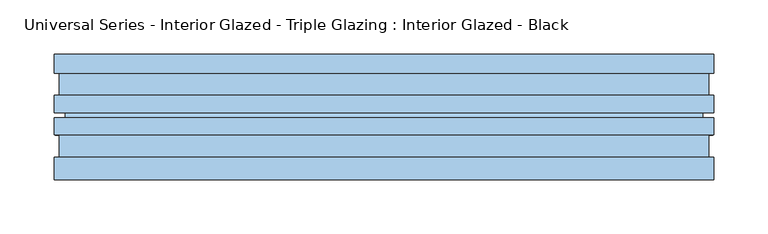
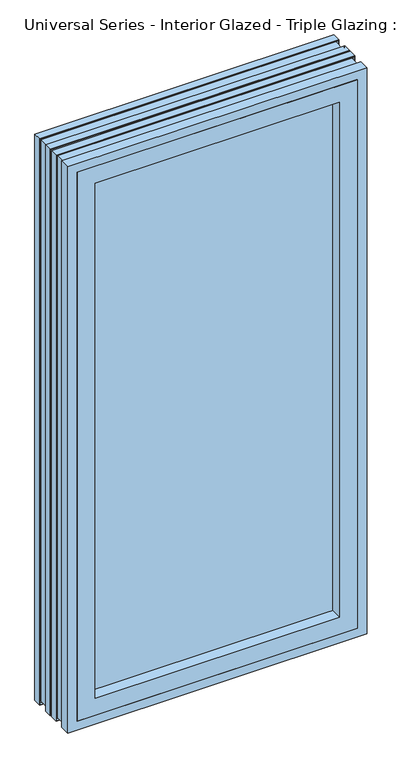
"""IFC4 building model written with IfcOpenShell, lengths in millimetres: window geometry, Universal Series - Interior Glazed - Triple Glazing : Interior Glazed - Black."""

from ifc_helpers import new_model, si_unit, frame, origin, place, context, project, spatial, polyline, ellipse_curve, outline, extrude, faceted_brep, source, transform, mapped, element, save
from ifc_brep_helpers import plane_surface, revolved_surface, advanced_brep


def universal_series_interior_glazed_triple_glazing_interior_81d28812(model_context):
    return source(origin(), model_context, "Body", "SolidModel", [
        extrude(outline(polyline([(276.225, 100.0), (276.225, 94.840625), (-276.225, 94.840625), (-276.225, 100.0), (276.225, 100.0)])), frame((0.0, 0.0, 790.575), z_axis=(0.0, 0.0, 1.0), x_axis=(1.0, 0.0, 0.0)), (0.0, 0.0, 1.0), 1162.05),
        extrude(outline(polyline([(276.225, 78.7671875), (276.225, 73.6078125), (-276.225, 73.6078125), (-276.225, 78.7671875), (276.225, 78.7671875)])), frame((0.0, 0.0, 790.575), z_axis=(0.0, 0.0, 1.0), x_axis=(1.0, 0.0, 0.0)), (0.0, 0.0, 1.0), 1162.05),
        extrude(outline(polyline([(276.225, 57.534375), (276.225, 52.375), (-276.225, 52.375), (-276.225, 57.534375), (276.225, 57.534375)])), frame((0.0, 0.0, 790.575), z_axis=(0.0, 0.0, 1.0), x_axis=(1.0, 0.0, 0.0)), (0.0, 0.0, 1.0), 1162.05),
        faceted_brep([(285.75, 31.7375, 1962.15), (285.75, 30.15, 1962.15), (285.75, 30.15, 781.05), (285.75, 31.7375, 781.05), (-285.75, 30.15, 781.05), (-285.75, 31.7375, 781.05), (-285.75, 30.15, 1962.15), (-249.2375, 30.15, 817.5625), (-249.2375, 30.15, 1925.6375), (249.2375, 30.15, 1925.6375), (249.2375, 30.15, 817.5625), (-285.75, 31.7375, 1962.15), (276.225, 31.7375, 790.575), (276.225, 31.7375, 1952.625), (-276.225, 31.7375, 1952.625), (-276.225, 31.7375, 790.575), (276.225, 50.7875, 1952.625), (276.225, 50.7875, 790.575), (-276.225, 50.7875, 790.575), (-276.225, 50.7875, 1952.625), (247.65, 52.375, 819.15), (-247.65, 52.375, 819.15), (247.65, 52.375, 1924.05), (-247.65, 52.375, 1924.05)], [[[0, 1, 2, 3]], [[3, 2, 4, 5]], [[2, 1, 6, 4], [7, 8, 9, 10]], [[5, 4, 6, 11]], [[5, 11, 0, 3], [12, 13, 14, 15]], [[16, 13, 12, 17]], [[17, 12, 15, 18]], [[18, 15, 14, 19]], [[20, 17, 18, 21]], [[22, 16, 17, 20]], [[21, 18, 19, 23]], [[10, 20, 21, 7]], [[9, 22, 20, 10]], [[7, 21, 23, 8]], [[11, 6, 1, 0]], [[19, 14, 13, 16]], [[23, 19, 16, 22]], [[8, 23, 22, 9]]]),
        advanced_brep(
        [(276.225, 112.7, 1952.625), (276.225, 146.0375, 1952.625), (276.225, 146.0375, 790.575), (276.225, 112.7, 790.575), (-276.225, 146.0375, 790.575), (-276.225, 112.7, 790.575), (-304.8, 146.0375, 762.0), (-304.8, 146.0375, 1981.2), (304.8, 146.0375, 1981.2), (304.8, 146.0375, 762.0), (-276.225, 146.0375, 1952.625), (-276.225, 112.7, 1952.625), (247.65, 112.7, 819.15), (247.65, 112.7, 1924.05), (-247.65, 112.7, 1924.05), (-247.65, 112.7, 819.15), (247.65, 100.0, 1924.05), (247.65, 100.0, 819.15), (-247.65, 100.0, 819.15), (-247.65, 100.0, 1924.05), (276.225, 100.0, 790.575), (276.225, 100.0, 1952.625), (-276.225, 100.0, 1952.625), (-276.225, 100.0, 790.575), (276.225, 44.4375, 1952.625), (276.225, 44.4375, 790.575), (-276.225, 44.4375, 790.575), (-276.225, 44.4375, 1952.625), (285.75, 44.4375, 781.05), (285.75, 44.4375, 1962.15), (-285.75, 44.4375, 1962.15), (-285.75, 44.4375, 781.05), (304.8, 30.15, 762.0), (304.8, 30.15, 1981.2), (-304.8, 30.15, 1981.2), (-304.8, 30.15, 762.0), (-285.75, 30.15, 781.05), (-285.75, 30.15, 1962.15), (285.75, 30.15, 1962.15), (285.75, 30.15, 781.05), (304.8, 50.7875, 1981.2), (304.8, 50.7875, 762.0), (-304.8, 50.7875, 762.0), (-304.8, 50.7875, 1981.2), (-304.8, 128.575, 762.0), (-304.8, 128.575, 1981.2), (304.8, 128.575, 1981.2), (304.8, 128.575, 762.0), (303.609375, 50.7875, 763.190625), (303.609375, 50.7875, 1980.009375), (-303.609375, 50.7875, 1980.009375), (-303.609375, 50.7875, 763.190625), (302.021875, 47.6125, 1978.421875), (302.021875, 47.6125, 764.778125), (-302.021875, 47.6125, 764.778125), (-302.021875, 47.6125, 1978.421875), (300.0375, 47.6125, 766.7625), (300.0375, 47.6125, 1976.4375), (-300.0375, 47.6125, 1976.4375), (-300.0375, 47.6125, 766.7625), (300.0375, 74.6, 1976.4375), (300.0375, 74.6, 766.7625), (-300.0375, 74.6, 766.7625), (-300.0375, 74.6, 1976.4375), (302.021875, 74.6, 764.778125), (302.021875, 74.6, 1978.421875), (-302.021875, 74.6, 1978.421875), (-302.021875, 74.6, 764.778125), (303.609375, 71.425, 1980.009375), (303.609375, 71.425, 763.190625), (-303.609375, 71.425, 763.190625), (-303.609375, 71.425, 1980.009375), (304.8, 71.425, 762.0), (304.8, 71.425, 1981.2), (-304.8, 71.425, 1981.2), (-304.8, 71.425, 762.0), (304.8, 87.3, 1981.2), (304.8, 87.3, 762.0), (-304.8, 87.3, 762.0), (-304.8, 87.3, 1981.2), (303.2125, 87.3, 763.5875), (303.2125, 87.3, 1979.6125), (-303.2125, 87.3, 1979.6125), (-303.2125, 87.3, 763.5875), (303.2125, 92.0625, 1979.6125), (303.2125, 92.0625, 763.5875), (-303.2125, 92.0625, 763.5875), (-303.2125, 92.0625, 1979.6125), (304.8, 92.0625, 762.0), (304.8, 92.0625, 1981.2), (-304.8, 92.0625, 1981.2), (-304.8, 92.0625, 762.0), (304.8, 107.9375, 1981.2), (304.8, 107.9375, 762.0), (-304.8, 107.9375, 762.0), (-304.8, 107.9375, 1981.2), (303.609375, 107.9375, 763.190625), (303.609375, 107.9375, 1980.009375), (-303.609375, 107.9375, 1980.009375), (-303.609375, 107.9375, 763.190625), (302.021875, 104.7625, 1978.421875), (302.021875, 104.7625, 764.778125), (-302.021875, 104.7625, 764.778125), (-302.021875, 104.7625, 1978.421875), (300.0375, 104.7625, 766.7625), (300.0375, 104.7625, 1976.4375), (-300.0375, 104.7625, 1976.4375), (-300.0375, 104.7625, 766.7625), (300.0375, 131.75, 1976.4375), (300.0375, 131.75, 766.7625), (-300.0375, 131.75, 766.7625), (-300.0375, 131.75, 1976.4375), (302.021875, 131.75, 764.778125), (302.021875, 131.75, 1978.421875), (-302.021875, 131.75, 1978.421875), (-302.021875, 131.75, 764.778125), (303.609375, 128.575, 1980.009375), (303.609375, 128.575, 763.190625), (-303.609375, 128.575, 763.190625), (-303.609375, 128.575, 1980.009375)],
        [
            (0, 1),
            (1, 2),
            (2, 3),
            (3, 0),
            (2, 4),
            (4, 5),
            (5, 3),
            (6, 7),
            (7, 8),
            (8, 9),
            (9, 6),
            (1, 10),
            (10, 4),
            (10, 11),
            (11, 5),
            (11, 0),
            (12, 13),
            (13, 14),
            (14, 15),
            (15, 12),
            (16, 13),
            (12, 17),
            (17, 16),
            (15, 18),
            (18, 17),
            (14, 19),
            (19, 18),
            (20, 21),
            (21, 22),
            (22, 23),
            (23, 20),
            (19, 16),
            (24, 21),
            (20, 25),
            (25, 24),
            (23, 26),
            (26, 25),
            (22, 27),
            (27, 26),
            (28, 29),
            (29, 30),
            (30, 31),
            (31, 28),
            (27, 24),
            (32, 33),
            (33, 34),
            (34, 35),
            (35, 32),
            (36, 37),
            (37, 38),
            (38, 39),
            (39, 36),
            (36, 31),
            (30, 37),
            (38, 29),
            (28, 39),
            (40, 33),
            (32, 41),
            (41, 40),
            (42, 35),
            (34, 43),
            (43, 42),
            (42, 41),
            (6, 44),
            (44, 45),
            (45, 7),
            (8, 46),
            (46, 47),
            (47, 9),
            (47, 44),
            (43, 40),
            (48, 49),
            (49, 50),
            (50, 51),
            (51, 48),
            (52, 49),
            (48, 53),
            (53, 52),
            (51, 54),
            (54, 53),
            (50, 55),
            (55, 54),
            (55, 52),
            (56, 57),
            (57, 58),
            (58, 59),
            (59, 56),
            (60, 57),
            (56, 61),
            (61, 60),
            (59, 62),
            (62, 61),
            (58, 63),
            (63, 62),
            (64, 65),
            (65, 66),
            (66, 67),
            (67, 64),
            (63, 60),
            (68, 65),
            (64, 69),
            (69, 68),
            (67, 70),
            (70, 69),
            (66, 71),
            (71, 70),
            (72, 73),
            (73, 74),
            (74, 75),
            (75, 72),
            (71, 68),
            (76, 73),
            (72, 77),
            (77, 76),
            (75, 78),
            (78, 77),
            (74, 79),
            (79, 78),
            (79, 76),
            (80, 81),
            (81, 82),
            (82, 83),
            (83, 80),
            (84, 81, ellipse_curve(frame((299.088054, 89.68125, 1975.488054), z_axis=(-0.7071067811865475, 0.0, 0.7071067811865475), x_axis=(-0.7071067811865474, 0.0, -0.7071067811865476)), 6.7351921, 4.7625)),
            (80, 85, ellipse_curve(frame((299.088054, 89.68125, 767.711946), z_axis=(-0.7071067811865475, 0.0, -0.7071067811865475), x_axis=(0.7071067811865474, 0.0, -0.7071067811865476)), 6.7351921, 4.7625)),
            (85, 84),
            (83, 86, ellipse_curve(frame((-299.088054, 89.68125, 767.711946), z_axis=(-0.7071067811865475, 0.0, 0.7071067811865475), x_axis=(-0.7071067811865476, 0.0, -0.7071067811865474)), 6.7351921, 4.7625)),
            (86, 85),
            (82, 87, ellipse_curve(frame((-299.088054, 89.68125, 1975.488054), z_axis=(0.7071067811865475, 0.0, 0.7071067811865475), x_axis=(-0.7071067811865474, 0.0, 0.7071067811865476)), 6.7351921, 4.7625)),
            (87, 86),
            (88, 89),
            (89, 90),
            (90, 91),
            (91, 88),
            (87, 84),
            (92, 89),
            (88, 93),
            (93, 92),
            (91, 94),
            (94, 93),
            (90, 95),
            (95, 94),
            (95, 92),
            (96, 97),
            (97, 98),
            (98, 99),
            (99, 96),
            (100, 97),
            (96, 101),
            (101, 100),
            (99, 102),
            (102, 101),
            (98, 103),
            (103, 102),
            (103, 100),
            (104, 105),
            (105, 106),
            (106, 107),
            (107, 104),
            (108, 105),
            (104, 109),
            (109, 108),
            (107, 110),
            (110, 109),
            (106, 111),
            (111, 110),
            (112, 113),
            (113, 114),
            (114, 115),
            (115, 112),
            (111, 108),
            (116, 113),
            (112, 117),
            (117, 116),
            (115, 118),
            (118, 117),
            (114, 119),
            (119, 118),
            (46, 45),
            (119, 116),
        ],
        [
            plane_surface(frame((276.225, 146.0375, 1952.625), z_axis=(-1.0, 0.0, 0.0), x_axis=(0.0, 0.0, -1.0))),
            plane_surface(frame((276.225, 146.0375, 790.575), z_axis=(0.0, 0.0, 1.0), x_axis=(-1.0, 0.0, 0.0))),
            plane_surface(frame((304.8, 146.0375, 1981.2), z_axis=(0.0, 1.0, 0.0), x_axis=(0.0, 0.0, -1.0))),
            plane_surface(frame((-276.225, 146.0375, 790.575), z_axis=(1.0, 0.0, 0.0), x_axis=(0.0, 0.0, 1.0))),
            plane_surface(frame((276.225, 112.7, 1952.625), z_axis=(0.0, 1.0, 0.0), x_axis=(0.0, 0.0, -1.0))),
            plane_surface(frame((247.65, 112.7, 1924.05), z_axis=(-1.0, 0.0, 0.0), x_axis=(0.0, 0.0, -1.0))),
            plane_surface(frame((247.65, 112.7, 819.15), z_axis=(0.0, 0.0, 1.0), x_axis=(-1.0, 0.0, 0.0))),
            plane_surface(frame((-247.65, 112.7, 819.15), z_axis=(1.0, 0.0, 0.0), x_axis=(0.0, 0.0, 1.0))),
            plane_surface(frame((247.65, 100.0, 1924.05), z_axis=(0.0, -1.0, 0.0), x_axis=(0.0, 0.0, -1.0))),
            plane_surface(frame((276.225, 100.0, 1952.625), z_axis=(-1.0, 0.0, 0.0), x_axis=(0.0, 0.0, -1.0))),
            plane_surface(frame((276.225, 100.0, 790.575), z_axis=(0.0, 0.0, 1.0), x_axis=(-1.0, 0.0, 0.0))),
            plane_surface(frame((-276.225, 100.0, 790.575), z_axis=(1.0, 0.0, 0.0), x_axis=(0.0, 0.0, 1.0))),
            plane_surface(frame((276.225, 44.4375, 1952.625), z_axis=(0.0, -1.0, 0.0), x_axis=(0.0, 0.0, -1.0))),
            plane_surface(frame((285.75, 30.15, 1962.15), z_axis=(0.0, -1.0, 0.0), x_axis=(0.0, 0.0, -1.0))),
            plane_surface(frame((-285.75, 44.4375, 781.05), z_axis=(1.0, 0.0, 0.0), x_axis=(0.0, 0.0, 1.0))),
            plane_surface(frame((285.75, 44.4375, 1962.15), z_axis=(-1.0, 0.0, 0.0), x_axis=(0.0, 0.0, -1.0))),
            plane_surface(frame((285.75, 44.4375, 781.05), z_axis=(0.0, 0.0, 1.0), x_axis=(-1.0, 0.0, 0.0))),
            plane_surface(frame((304.8, 30.15, 1981.2), z_axis=(1.0, 0.0, 0.0), x_axis=(0.0, 0.0, -1.0))),
            plane_surface(frame((-304.8, 30.15, 762.0), z_axis=(-1.0, 0.0, 0.0), x_axis=(0.0, 0.0, 1.0))),
            plane_surface(frame((304.8, 30.15, 762.0), z_axis=(0.0, 0.0, -1.0), x_axis=(-1.0, 0.0, 0.0))),
            plane_surface(frame((-304.8, 128.575, 762.0), z_axis=(-1.0, 0.0, 0.0), x_axis=(0.0, 0.0, 1.0))),
            plane_surface(frame((304.8, 128.575, 1981.2), z_axis=(1.0, 0.0, 0.0), x_axis=(0.0, 0.0, -1.0))),
            plane_surface(frame((304.8, 128.575, 762.0), z_axis=(0.0, 0.0, -1.0), x_axis=(-1.0, 0.0, 0.0))),
            plane_surface(frame((304.8, 50.7875, 1981.2), z_axis=(0.0, 1.0, 0.0), x_axis=(0.0, 0.0, -1.0))),
            plane_surface(frame((303.609375, 50.7875, 1980.009375), z_axis=(-0.8944271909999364, 0.44721359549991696, 0.0), x_axis=(0.0, 0.0, -1.0))),
            plane_surface(frame((303.609375, 50.7875, 763.190625), z_axis=(0.0, 0.4472135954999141, 0.8944271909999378), x_axis=(-1.0, 0.0, 0.0))),
            plane_surface(frame((-303.609375, 50.7875, 763.190625), z_axis=(0.8944271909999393, 0.4472135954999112, 0.0), x_axis=(0.0, 0.0, 1.0))),
            plane_surface(frame((302.021875, 47.6125, 1978.421875), z_axis=(0.0, 1.0, 0.0), x_axis=(0.0, 0.0, -1.0))),
            plane_surface(frame((300.0375, 47.6125, 1976.4375), z_axis=(1.0, 0.0, 0.0), x_axis=(0.0, 0.0, -1.0))),
            plane_surface(frame((300.0375, 47.6125, 766.7625), z_axis=(0.0, 0.0, -1.0), x_axis=(-1.0, 0.0, 0.0))),
            plane_surface(frame((-300.0375, 47.6125, 766.7625), z_axis=(-1.0, 0.0, 0.0), x_axis=(0.0, 0.0, 1.0))),
            plane_surface(frame((300.0375, 74.6, 1976.4375), z_axis=(0.0, -1.0, 0.0), x_axis=(0.0, 0.0, -1.0))),
            plane_surface(frame((302.021875, 74.6, 1978.421875), z_axis=(-0.8944271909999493, -0.44721359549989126, 0.0), x_axis=(0.0, 0.0, -1.0))),
            plane_surface(frame((302.021875, 74.6, 764.778125), z_axis=(0.0, -0.44721359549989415, 0.8944271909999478), x_axis=(-1.0, 0.0, 0.0))),
            plane_surface(frame((-302.021875, 74.6, 764.778125), z_axis=(0.8944271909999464, -0.44721359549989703, 0.0), x_axis=(0.0, 0.0, 1.0))),
            plane_surface(frame((303.609375, 71.425, 1980.009375), z_axis=(0.0, -1.0, 0.0), x_axis=(0.0, 0.0, -1.0))),
            plane_surface(frame((304.8, 71.425, 1981.2), z_axis=(1.0, 0.0, 0.0), x_axis=(0.0, 0.0, -1.0))),
            plane_surface(frame((304.8, 71.425, 762.0), z_axis=(0.0, 0.0, -1.0), x_axis=(-1.0, 0.0, 0.0))),
            plane_surface(frame((-304.8, 71.425, 762.0), z_axis=(-1.0, 0.0, 0.0), x_axis=(0.0, 0.0, 1.0))),
            plane_surface(frame((304.8, 87.3, 1981.2), z_axis=(0.0, 1.0, 0.0), x_axis=(0.0, 0.0, -1.0))),
            revolved_surface(polyline([(299.088054, 84.91875, 762.949445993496), (299.088054, 84.91875, 1980.250554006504)]), (299.088054, 89.68125, 1981.2), (0.0, 0.0, -1.0)),
            revolved_surface(polyline([(-303.85055400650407, 84.91875, 767.711946), (303.85055400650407, 84.91875, 767.711946)]), (304.8, 89.68125, 767.711946), (-1.0, 0.0, 0.0)),
            revolved_surface(polyline([(-299.088054, 84.91875, 1980.250554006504), (-299.088054, 84.91875, 762.9494459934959)]), (-299.088054, 89.68125, 762.0), (0.0, 0.0, 1.0)),
            plane_surface(frame((303.2125, 92.0625, 1979.6125), z_axis=(0.0, -1.0, 0.0), x_axis=(0.0, 0.0, -1.0))),
            plane_surface(frame((304.8, 92.0625, 1981.2), z_axis=(1.0, 0.0, 0.0), x_axis=(0.0, 0.0, -1.0))),
            plane_surface(frame((304.8, 92.0625, 762.0), z_axis=(0.0, 0.0, -1.0), x_axis=(-1.0, 0.0, 0.0))),
            plane_surface(frame((-304.8, 92.0625, 762.0), z_axis=(-1.0, 0.0, 0.0), x_axis=(0.0, 0.0, 1.0))),
            plane_surface(frame((304.8, 107.9375, 1981.2), z_axis=(0.0, 1.0, 0.0), x_axis=(0.0, 0.0, -1.0))),
            plane_surface(frame((303.609375, 107.9375, 1980.009375), z_axis=(-0.8944271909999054, 0.4472135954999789, 0.0), x_axis=(0.0, 0.0, -1.0))),
            plane_surface(frame((303.609375, 107.9375, 763.190625), z_axis=(0.0, 0.447213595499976, 0.8944271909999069), x_axis=(-1.0, 0.0, 0.0))),
            plane_surface(frame((-303.609375, 107.9375, 763.190625), z_axis=(0.8944271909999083, 0.44721359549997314, 0.0), x_axis=(0.0, 0.0, 1.0))),
            plane_surface(frame((302.021875, 104.7625, 1978.421875), z_axis=(0.0, 1.0, 0.0), x_axis=(0.0, 0.0, -1.0))),
            plane_surface(frame((300.0375, 104.7625, 1976.4375), z_axis=(1.0, 0.0, 0.0), x_axis=(0.0, 0.0, -1.0))),
            plane_surface(frame((300.0375, 104.7625, 766.7625), z_axis=(0.0, 0.0, -1.0), x_axis=(-1.0, 0.0, 0.0))),
            plane_surface(frame((-300.0375, 104.7625, 766.7625), z_axis=(-1.0, 0.0, 0.0), x_axis=(0.0, 0.0, 1.0))),
            plane_surface(frame((300.0375, 131.75, 1976.4375), z_axis=(0.0, -1.0, 0.0), x_axis=(0.0, 0.0, -1.0))),
            plane_surface(frame((302.021875, 131.75, 1978.421875), z_axis=(-0.894427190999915, -0.44721359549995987, 0.0), x_axis=(0.0, 0.0, -1.0))),
            plane_surface(frame((302.021875, 131.75, 764.778125), z_axis=(0.0, -0.44721359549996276, 0.8944271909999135), x_axis=(-1.0, 0.0, 0.0))),
            plane_surface(frame((-302.021875, 131.75, 764.778125), z_axis=(0.8944271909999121, -0.44721359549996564, 0.0), x_axis=(0.0, 0.0, 1.0))),
            plane_surface(frame((303.609375, 128.575, 1980.009375), z_axis=(0.0, -1.0, 0.0), x_axis=(0.0, 0.0, -1.0))),
            plane_surface(frame((-276.225, 146.0375, 1952.625), z_axis=(0.0, 0.0, -1.0), x_axis=(1.0, 0.0, 0.0))),
            plane_surface(frame((-247.65, 112.7, 1924.05), z_axis=(0.0, 0.0, -1.0), x_axis=(1.0, 0.0, 0.0))),
            plane_surface(frame((-276.225, 100.0, 1952.625), z_axis=(0.0, 0.0, -1.0), x_axis=(1.0, 0.0, 0.0))),
            plane_surface(frame((-285.75, 44.4375, 1962.15), z_axis=(0.0, 0.0, -1.0), x_axis=(1.0, 0.0, 0.0))),
            plane_surface(frame((-304.8, 30.15, 1981.2), z_axis=(0.0, 0.0, 1.0), x_axis=(1.0, 0.0, 0.0))),
            plane_surface(frame((-303.609375, 50.7875, 1980.009375), z_axis=(0.0, 0.4472135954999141, -0.8944271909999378), x_axis=(1.0, 0.0, 0.0))),
            plane_surface(frame((-300.0375, 47.6125, 1976.4375), z_axis=(0.0, 0.0, 1.0), x_axis=(1.0, 0.0, 0.0))),
            plane_surface(frame((-302.021875, 74.6, 1978.421875), z_axis=(0.0, -0.44721359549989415, -0.8944271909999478), x_axis=(1.0, 0.0, 0.0))),
            plane_surface(frame((-304.8, 71.425, 1981.2), z_axis=(0.0, 0.0, 1.0), x_axis=(1.0, 0.0, 0.0))),
            revolved_surface(polyline([(303.85055400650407, 84.91875, 1975.488054), (-303.85055400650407, 84.91875, 1975.488054)]), (-304.8, 89.68125, 1975.488054), (1.0, 0.0, 0.0)),
            plane_surface(frame((-304.8, 92.0625, 1981.2), z_axis=(0.0, 0.0, 1.0), x_axis=(1.0, 0.0, 0.0))),
            plane_surface(frame((-303.609375, 107.9375, 1980.009375), z_axis=(0.0, 0.447213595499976, -0.8944271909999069), x_axis=(1.0, 0.0, 0.0))),
            plane_surface(frame((-300.0375, 104.7625, 1976.4375), z_axis=(0.0, 0.0, 1.0), x_axis=(1.0, 0.0, 0.0))),
            plane_surface(frame((-302.021875, 131.75, 1978.421875), z_axis=(0.0, -0.44721359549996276, -0.8944271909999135), x_axis=(1.0, 0.0, 0.0))),
            plane_surface(frame((-304.8, 128.575, 1981.2), z_axis=(0.0, 0.0, 1.0), x_axis=(1.0, 0.0, 0.0))),
        ],
        [
            (0, [[1, 2, 3, 4]]),
            (1, [[-3, 5, 6, 7]]),
            (2, [[8, 9, 10, 11], [-2, 12, 13, -5]]),
            (3, [[-6, -13, 14, 15]]),
            (4, [[-15, 16, -4, -7], [17, 18, 19, 20]]),
            (5, [[21, -17, 22, 23]]),
            (6, [[-22, -20, 24, 25]]),
            (7, [[-24, -19, 26, 27]]),
            (8, [[28, 29, 30, 31], [-27, 32, -23, -25]]),
            (9, [[33, -28, 34, 35]]),
            (10, [[-34, -31, 36, 37]]),
            (11, [[-36, -30, 38, 39]]),
            (12, [[40, 41, 42, 43], [-39, 44, -35, -37]]),
            (13, [[45, 46, 47, 48], [49, 50, 51, 52]]),
            (14, [[53, -42, 54, -49]]),
            (15, [[55, -40, 56, -51]]),
            (16, [[-56, -43, -53, -52]]),
            (17, [[57, -45, 58, 59]]),
            (18, [[60, -47, 61, 62]]),
            (19, [[-58, -48, -60, 63]]),
            (20, [[64, 65, 66, -8]]),
            (21, [[67, 68, 69, -10]]),
            (22, [[-69, 70, -64, -11]]),
            (23, [[-62, 71, -59, -63], [72, 73, 74, 75]]),
            (24, [[76, -72, 77, 78]]),
            (25, [[-77, -75, 79, 80]]),
            (26, [[-79, -74, 81, 82]]),
            (27, [[-82, 83, -78, -80], [84, 85, 86, 87]]),
            (28, [[88, -84, 89, 90]]),
            (29, [[-89, -87, 91, 92]]),
            (30, [[-91, -86, 93, 94]]),
            (31, [[95, 96, 97, 98], [-94, 99, -90, -92]]),
            (32, [[100, -95, 101, 102]]),
            (33, [[-101, -98, 103, 104]]),
            (34, [[-103, -97, 105, 106]]),
            (35, [[107, 108, 109, 110], [-106, 111, -102, -104]]),
            (36, [[112, -107, 113, 114]]),
            (37, [[-113, -110, 115, 116]]),
            (38, [[-115, -109, 117, 118]]),
            (39, [[-118, 119, -114, -116], [120, 121, 122, 123]]),
            (40, [[124, -120, 125, 126]]),
            (41, [[-125, -123, 127, 128]]),
            (42, [[-127, -122, 129, 130]]),
            (43, [[131, 132, 133, 134], [-130, 135, -126, -128]]),
            (44, [[136, -131, 137, 138]]),
            (45, [[-137, -134, 139, 140]]),
            (46, [[-139, -133, 141, 142]]),
            (47, [[-142, 143, -138, -140], [144, 145, 146, 147]]),
            (48, [[148, -144, 149, 150]]),
            (49, [[-149, -147, 151, 152]]),
            (50, [[-151, -146, 153, 154]]),
            (51, [[-154, 155, -150, -152], [156, 157, 158, 159]]),
            (52, [[160, -156, 161, 162]]),
            (53, [[-161, -159, 163, 164]]),
            (54, [[-163, -158, 165, 166]]),
            (55, [[167, 168, 169, 170], [-166, 171, -162, -164]]),
            (56, [[172, -167, 173, 174]]),
            (57, [[-173, -170, 175, 176]]),
            (58, [[-175, -169, 177, 178]]),
            (59, [[-68, 179, -65, -70], [-178, 180, -174, -176]]),
            (60, [[-14, -12, -1, -16]]),
            (61, [[-26, -18, -21, -32]]),
            (62, [[-38, -29, -33, -44]]),
            (63, [[-54, -41, -55, -50]]),
            (64, [[-61, -46, -57, -71]]),
            (65, [[-81, -73, -76, -83]]),
            (66, [[-93, -85, -88, -99]]),
            (67, [[-105, -96, -100, -111]]),
            (68, [[-117, -108, -112, -119]]),
            (69, [[-129, -121, -124, -135]]),
            (70, [[-141, -132, -136, -143]]),
            (71, [[-153, -145, -148, -155]]),
            (72, [[-165, -157, -160, -171]]),
            (73, [[-177, -168, -172, -180]]),
            (74, [[-66, -179, -67, -9]]),
        ],
    ),
    ])


if __name__ == "__main__":
    model = new_model("IFC4")
    model_context = context("Model", 3, world=origin())
    ifc_project = project(units=[si_unit("LENGTHUNIT", "METRE", prefix="MILLI")], contexts=[model_context])
    site = spatial("IfcSite", under=ifc_project)
    building = spatial("IfcBuilding", under=site)
    placement = place(None, origin())
    universal_series_interior_glazed_triple_glazing_interior_shape = universal_series_interior_glazed_triple_glazing_interior_81d28812(model_context)
    element("IfcWindow", 1, ObjectType="Universal Series - Interior Glazed - Triple Glazing : Interior Glazed - Black", at=placement, inside=building, context=model_context, shape_type="MappedRepresentation", body=[
        mapped(universal_series_interior_glazed_triple_glazing_interior_shape, transform((0.0, 0.0, 0.0), x_axis=(1.0, 0.0, 0.0), y_axis=(0.0, 1.0, 0.0), z_axis=(0.0, 0.0, 1.0))),
    ])
    save(model, "model.ifc")
